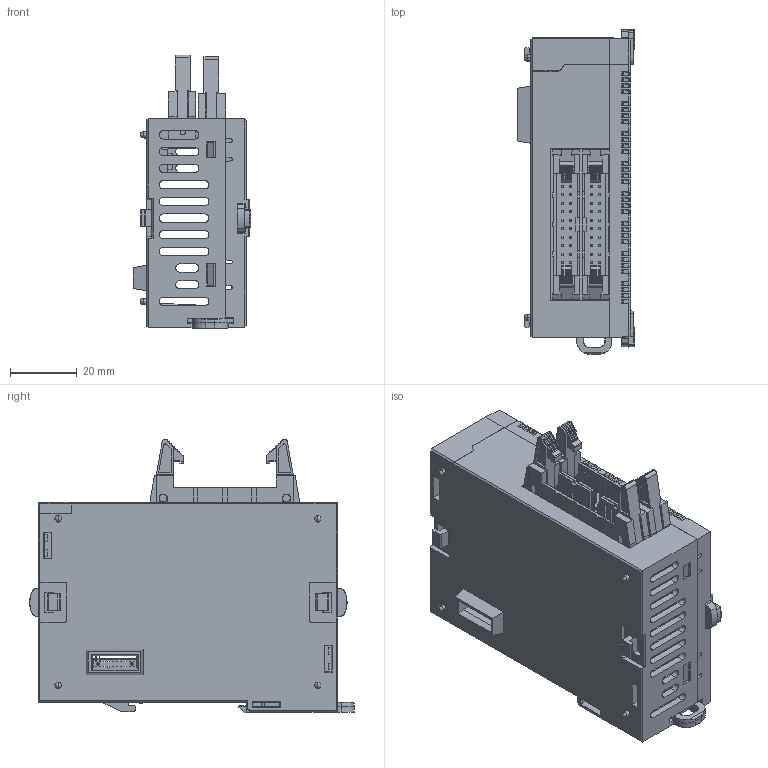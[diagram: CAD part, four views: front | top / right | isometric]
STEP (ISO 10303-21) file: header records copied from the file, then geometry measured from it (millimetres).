
FILE_DESCRIPTION (( 'STEP AP214' ), '1' );
FILE_NAME ('IO-SD1616PI.STEP', '2023-11-10T22:42:13', ( '' ), ( '' ), 'SwSTEP 2.0', 'SolidWorks 2019', '' );
FILE_SCHEMA (( 'AUTOMOTIVE_DESIGN' ));
Length unit declared in the file: inch
Products named in the file (1): IO-SD1616PI
Bounding box: 35.2 x 97.54 x 82.25 mm (x, y, z)
Surface area: 47802.3 mm2 (no closed solid volume)
Topology: 0 solids, 29 shells, 2028 faces, 7649 edges, 5476 vertices
Faces by surface type: plane 1714, cylinder 239, cone 36, bspline 27, sphere 8, torus 4
Entity records: 105921 total; most frequent: CARTESIAN_POINT 16410, ORIENTED_EDGE 12551, DIRECTION 11974, EDGE_CURVE 7637, LINE 6848, VECTOR 6848, VERTEX_POINT 5472, AXIS2_PLACEMENT_3D 2563
